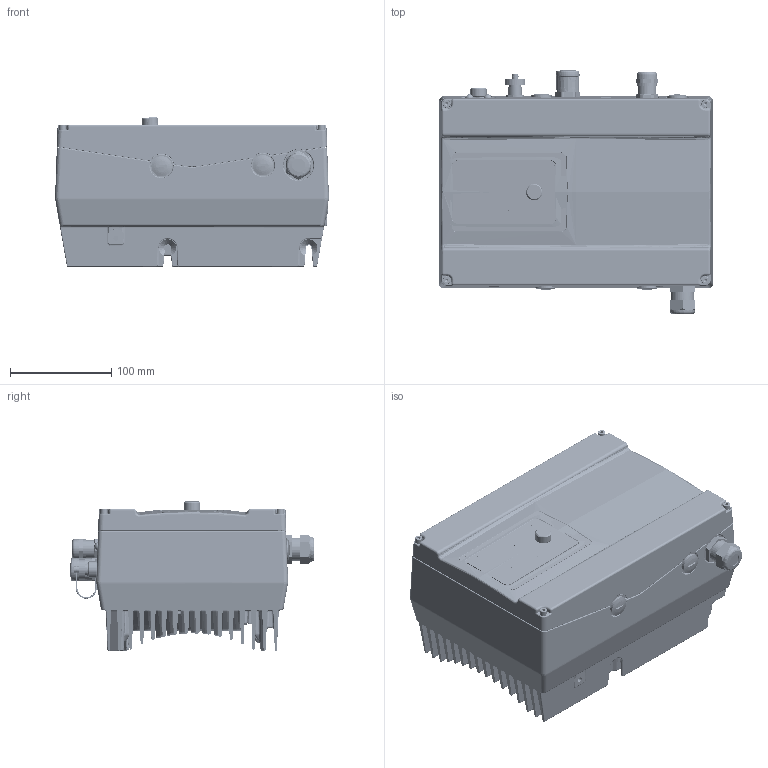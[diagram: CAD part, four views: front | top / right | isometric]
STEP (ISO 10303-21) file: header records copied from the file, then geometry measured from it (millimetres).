
FILE_DESCRIPTION(('CATIA V5 STEP 214','CAx-IF Rec.Pracs.--- Model Styling and Organization---1.4--- 2014-01-23'),'2;1');
FILE_NAME('C:\Temp\ddxv7\595577\MKT INVEOR M B-1-0001A.stp','2023-08-18T08:37:38+00:00',('Leopold Kostal'),('Kostal GmbH'),'CATIA Version 5-6 Release 2016 SP6 HF31','CATIA V5 STEP AP214','none');
FILE_SCHEMA(('AUTOMOTIVE_DESIGN { 1 0 10303 214 1 1 1 1 }'));
Length unit declared in the file: millimetre
Products named in the file (1): MKT INVEOR M B-1-0001A
Bounding box: 269.93 x 241.34 x 147.24 mm (x, y, z)
Surface area: 1232988.2 mm2
Topology: 6 solids, 70 shells, 16070 faces, 43788 edges, 27004 vertices
Faces by surface type: plane 6659, cylinder 3255, extrusion 2183, bspline 2110, torus 905, cone 844, sphere 92, revolution 22
Entity records: 654012 total; most frequent: CARTESIAN_POINT 307915, ORIENTED_EDGE 86860, DIRECTION 46163, EDGE_CURVE 43258, VERTEX_POINT 26884, VECTOR 19739, AXIS2_PLACEMENT_3D 17586, LINE 17556
